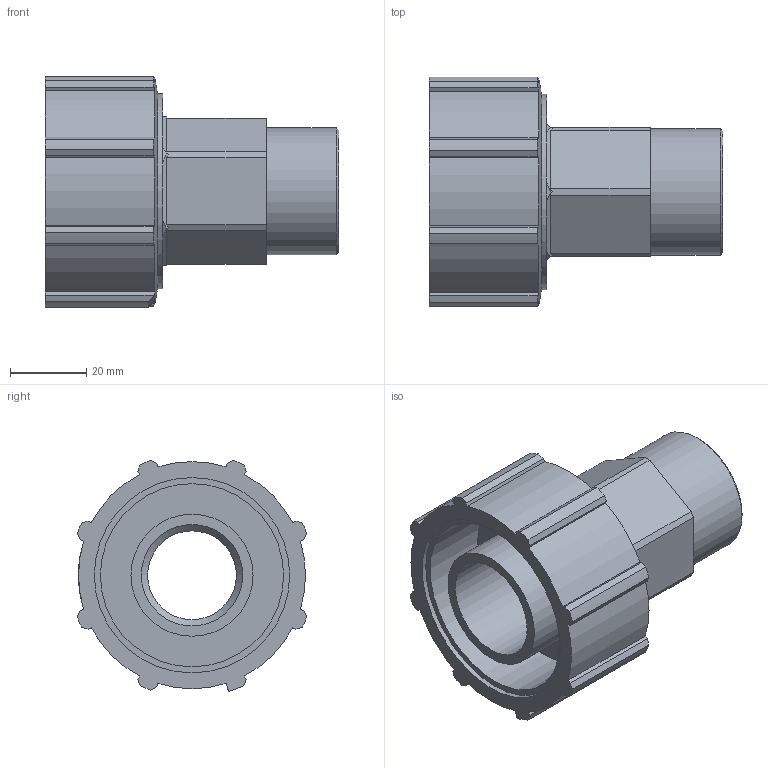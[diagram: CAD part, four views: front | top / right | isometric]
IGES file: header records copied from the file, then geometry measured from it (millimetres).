
Global section: file name: 072700032010_182700032010_72706032010.ipt; native system: Autodesk Inventor 2015; preprocessor: unknown; author: KIM; date: 20170606.172344; units: millimetre
Bounding box: 77 x 60.22 x 60.63 mm (x, y, z)
Volume: 67455 mm3; surface area: 29359.5 mm2
Topology: 1 solids, 1 shells, 92 faces, 258 edges, 174 vertices
Faces by surface type: plane 63, cylinder 20, revolution 6, cone 3
Full cylindrical faces by diameter (mm): 32 x1, 33.249 x1, 39.1 x1, 51.2 x1
